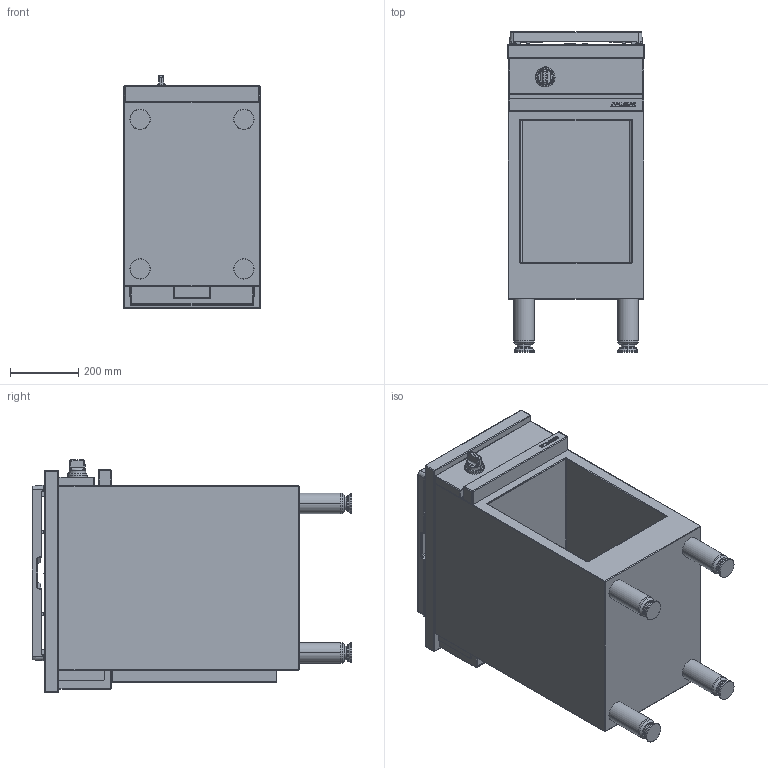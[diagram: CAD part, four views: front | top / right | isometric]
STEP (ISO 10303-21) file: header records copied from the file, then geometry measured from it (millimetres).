
FILE_DESCRIPTION((''),'2;1');
FILE_NAME('CMG410CF_EXPORT_STEP_ASM','2017-11-22T',('r.avril'),(''),'PRO/ENGINEER BY PARAMETRIC TECHNOLOGY CORPORATION, 2014200','PRO/ENGINEER BY PARAMETRIC TECHNOLOGY CORPORATION, 2014200','');
FILE_SCHEMA(('AP203_CONFIGURATION_CONTROLLED_3D_DESIGN_OF_MECHANICAL_PARTS_AND_ASSEMBLIES_MIM_LF { 1 0 10303 403 2 1 2 }'));
Products named in the file (10): MODULES_AMB_400_EXPORT_STEP; TABLE_410_CF; 5KW; 65062008; 65062012; 65149005; 90000549_ASM; TABLE_410_CF_ASM; MANETTE_AMB_EXPORT_STEP; CMG410CF_EXPORT_STEP_ASM
Assembly tree (12 placements, depth 4):
  CMG410CF_EXPORT_STEP_ASM
    MODULES_AMB_400_EXPORT_STEP
    TABLE_410_CF_ASM
      TABLE_410_CF
      5KW
      90000549_ASM
        65062008
        65062012
        65149005  x4
    MANETTE_AMB_EXPORT_STEP
Bounding box: 400 x 937 x 682.5 mm (x, y, z)
Volume: 54863231.8 mm3; surface area: 4526828.9 mm2
Topology: 17 solids, 35 shells, 2798 faces, 7685 edges, 5257 vertices
Faces by surface type: plane 1588, cylinder 642, bspline 232, sphere 148, torus 134, cone 54
Entity records: 119620 total; most frequent: CARTESIAN_POINT 29121, ORIENTED_EDGE 14096, DIRECTION 13296, EDGE_CURVE 7273, PRESENTATION_STYLE_ASSIGNMENT 6537, STYLED_ITEM 6537, CURVE_STYLE 6352, VECTOR 5254
